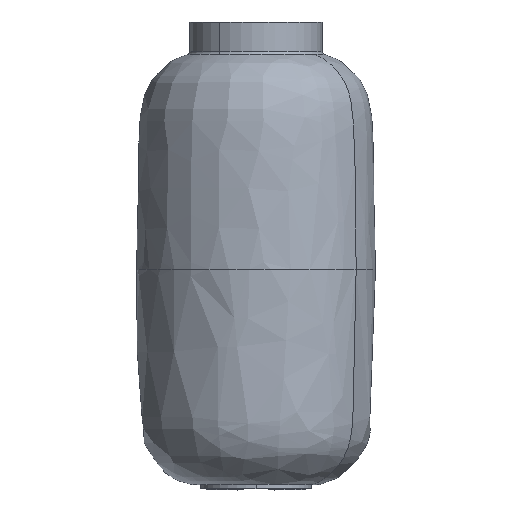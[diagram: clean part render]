
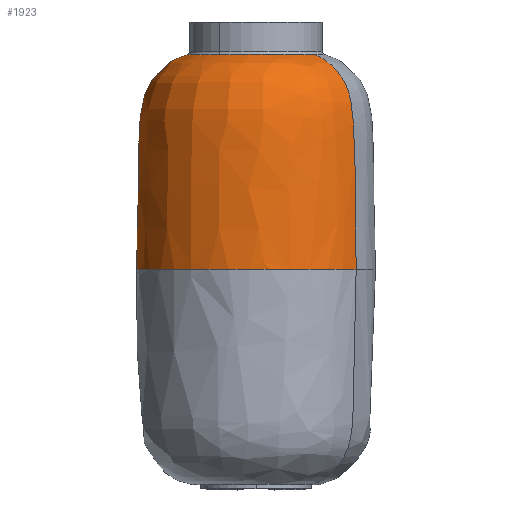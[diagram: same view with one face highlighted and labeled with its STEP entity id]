
A CAD part, top view. The second image highlights one B-rep face of the part: STEP entity #1923.
In plain terms, the highlighted free-form (B-spline) face has degree [3, 3] with [9, 4] control points.
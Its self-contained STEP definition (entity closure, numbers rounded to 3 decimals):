
#47 = CARTESIAN_POINT ( 'NONE',  ( -101.275, 236.669, 142.036 ) ) ;
#63 = CARTESIAN_POINT ( 'NONE',  ( 208.761, 236.669, 77.027 ) ) ;
#76 = CARTESIAN_POINT ( 'NONE',  ( 21.237, 234.627, -45.488 ) ) ;
#92 = CARTESIAN_POINT ( 'NONE',  ( 178.36, 433.108, 57.164 ) ) ;
#240 = ORIENTED_EDGE ( 'NONE', *, *, #1180, .F. ) ;
#252 = ORIENTED_EDGE ( 'NONE', *, *, #1494, .F. ) ;
#260 = CARTESIAN_POINT ( 'NONE',  ( 22.19, 359.636, -44.865 ) ) ;
#273 = CARTESIAN_POINT ( 'NONE',  ( 201.471, 403.762, 72.264 ) ) ;
#288 = CARTESIAN_POINT ( 'NONE',  ( -91.186, 390.59, 136.146 ) ) ;
#297 = B_SPLINE_CURVE_WITH_KNOTS ( 'NONE', 3,
 ( #1343, #930, #2056, #2918, #2072, #1378, #1392, #1814, #2747 ),
 .UNSPECIFIED., .F., .F.,
 ( 4, 1, 1, 1, 1, 1, 4 ),
 ( 0.045, 0.28, 0.332, 0.526, 0.595, 0.978, 1. ),
 .UNSPECIFIED. ) ;
#301 = CARTESIAN_POINT ( 'NONE',  ( 190.354, 422.765, 65.001 ) ) ;
#316 = CARTESIAN_POINT ( 'NONE',  ( 21.237, 234.627, -45.488 ) ) ;
#331 = CARTESIAN_POINT ( 'NONE',  ( 21.304, 275.52, -45.444 ) ) ;
#486 = CARTESIAN_POINT ( 'NONE',  ( 61.126, 435.609, -19.428 ) ) ;
#497 = CARTESIAN_POINT ( 'NONE',  ( 207.81, 359.636, 76.405 ) ) ;
#531 = VERTEX_POINT ( 'NONE', #2917 ) ;
#582 = CIRCLE ( 'NONE', #2252, 64.353 ) ;
#586 = DIRECTION ( 'NONE',  ( 0., -1., 0. ) ) ;
#711 = DIRECTION ( 'NONE',  ( -0.547, 0., 0.837 ) ) ;
#719 = ORIENTED_EDGE ( 'NONE', *, *, #2081, .T. ) ;
#726 = CARTESIAN_POINT ( 'NONE',  ( -101.278, 234.627, 142.038 ) ) ;
#741 = CARTESIAN_POINT ( 'NONE',  ( 25.613, 390.59, -42.629 ) ) ;
#752 = AXIS2_PLACEMENT_3D ( 'NONE', #1481, #2200, #711 ) ;
#829 = CIRCLE ( 'NONE', #2356, 64.353 ) ;
#892 = CIRCLE ( 'NONE', #752, 112. ) ;
#930 = CARTESIAN_POINT ( 'NONE',  ( 178.36, 433.108, 57.164 ) ) ;
#968 = CARTESIAN_POINT ( 'NONE',  ( 208.763, 234.627, 77.028 ) ) ;
#1014 = CARTESIAN_POINT ( 'NONE',  ( 204.387, 390.59, 74.169 ) ) ;
#1026 = DIRECTION ( 'NONE',  ( -0.547, 0., 0.837 ) ) ;
#1050 =( BOUNDED_SURFACE ( )  B_SPLINE_SURFACE ( 3, 3, ( 
 ( #2492, #2242, #2922, #2335 ),
 ( #92, #1452, #2320, #1250 ),
 ( #301, #1425, #2350, #2383 ),
 ( #273, #1646, #1196, #1235 ),
 ( #1014, #1663, #288, #741 ),
 ( #497, #1897, #1210, #1410 ),
 ( #2140, #2366, #2097, #331 ),
 ( #63, #2808, #47, #2125 ),
 ( #968, #2112, #726, #316 ) ),
 .UNSPECIFIED., .F., .F., .T. ) 
 B_SPLINE_SURFACE_WITH_KNOTS ( ( 4, 1, 1, 1, 1, 1, 4 ),
 ( 4, 4 ),
 ( 0.045, 0.28, 0.332, 0.526, 0.595, 0.978, 1. ),
 ( 0., 1. ),
 .UNSPECIFIED. ) 
 GEOMETRIC_REPRESENTATION_ITEM ( )  RATIONAL_B_SPLINE_SURFACE ( (
 ( 1., 0.333, 0.333, 1.),
 ( 1., 0.333, 0.333, 1.),
 ( 1., 0.333, 0.333, 1.),
 ( 1., 0.333, 0.333, 1.),
 ( 1., 0.333, 0.333, 1.),
 ( 1., 0.333, 0.333, 1.),
 ( 1., 0.333, 0.333, 1.),
 ( 1., 0.333, 0.333, 1.),
 ( 1., 0.333, 0.333, 1.) ) ) 
 REPRESENTATION_ITEM ( '' )  SURFACE ( )  );
#1116 = FACE_OUTER_BOUND ( 'NONE', #2632, .T. ) ;
#1136 = CARTESIAN_POINT ( 'NONE',  ( 51.64, 433.108, -25.624 ) ) ;
#1180 = EDGE_CURVE ( 'NONE', #1348, #1952, #892, .T. ) ;
#1196 = CARTESIAN_POINT ( 'NONE',  ( -84.459, 403.762, 132.219 ) ) ;
#1210 = CARTESIAN_POINT ( 'NONE',  ( -99.08, 359.636, 140.755 ) ) ;
#1235 = CARTESIAN_POINT ( 'NONE',  ( 28.529, 403.762, -40.724 ) ) ;
#1250 = CARTESIAN_POINT ( 'NONE',  ( 51.64, 433.108, -25.624 ) ) ;
#1343 = CARTESIAN_POINT ( 'NONE',  ( 168.874, 435.609, 50.968 ) ) ;
#1348 = VERTEX_POINT ( 'NONE', #1502 ) ;
#1350 = VERTEX_POINT ( 'NONE', #2414 ) ;
#1354 = CARTESIAN_POINT ( 'NONE',  ( 25.613, 390.59, -42.629 ) ) ;
#1378 = CARTESIAN_POINT ( 'NONE',  ( 207.81, 359.636, 76.405 ) ) ;
#1392 = CARTESIAN_POINT ( 'NONE',  ( 208.696, 275.52, 76.984 ) ) ;
#1410 = CARTESIAN_POINT ( 'NONE',  ( 22.19, 359.636, -44.865 ) ) ;
#1425 = CARTESIAN_POINT ( 'NONE',  ( 91.893, 422.765, 215.709 ) ) ;
#1449 = VERTEX_POINT ( 'NONE', #2300 ) ;
#1452 = CARTESIAN_POINT ( 'NONE',  ( 95.571, 433.108, 183.883 ) ) ;
#1481 = CARTESIAN_POINT ( 'NONE',  ( 115., 234.627, 15.77 ) ) ;
#1494 = EDGE_CURVE ( 'NONE', #1350, #1348, #297, .T. ) ;
#1502 = CARTESIAN_POINT ( 'NONE',  ( 208.763, 234.627, 77.028 ) ) ;
#1512 = CARTESIAN_POINT ( 'NONE',  ( 115., 435.609, 15.77 ) ) ;
#1517 = CARTESIAN_POINT ( 'NONE',  ( 115., 435.609, 15.77 ) ) ;
#1646 = CARTESIAN_POINT ( 'NONE',  ( 88.483, 403.762, 245.206 ) ) ;
#1663 = CARTESIAN_POINT ( 'NONE',  ( 87.589, 390.59, 252.944 ) ) ;
#1754 = B_SPLINE_CURVE_WITH_KNOTS ( 'NONE', 3,
 ( #486, #1136, #2084, #1823, #1354, #260, #2739, #2496, #2546 ),
 .UNSPECIFIED., .F., .F.,
 ( 4, 1, 1, 1, 1, 1, 4 ),
 ( 0.045, 0.28, 0.332, 0.526, 0.595, 0.978, 1. ),
 .UNSPECIFIED. ) ;
#1814 = CARTESIAN_POINT ( 'NONE',  ( 208.761, 236.669, 77.027 ) ) ;
#1823 = CARTESIAN_POINT ( 'NONE',  ( 28.529, 403.762, -40.724 ) ) ;
#1897 = CARTESIAN_POINT ( 'NONE',  ( 86.54, 359.636, 262.025 ) ) ;
#1923 = ADVANCED_FACE ( 'NONE', ( #1116 ), #1050, .F. ) ;
#1952 = VERTEX_POINT ( 'NONE', #76 ) ;
#2056 = CARTESIAN_POINT ( 'NONE',  ( 190.354, 422.765, 65.001 ) ) ;
#2072 = CARTESIAN_POINT ( 'NONE',  ( 204.387, 390.59, 74.169 ) ) ;
#2081 = EDGE_CURVE ( 'NONE', #531, #1449, #582, .T. ) ;
#2084 = CARTESIAN_POINT ( 'NONE',  ( 39.646, 422.765, -33.461 ) ) ;
#2097 = CARTESIAN_POINT ( 'NONE',  ( -101.123, 275.52, 141.947 ) ) ;
#2112 = CARTESIAN_POINT ( 'NONE',  ( 86.247, 234.627, 264.554 ) ) ;
#2125 = CARTESIAN_POINT ( 'NONE',  ( 21.239, 236.669, -45.487 ) ) ;
#2140 = CARTESIAN_POINT ( 'NONE',  ( 208.696, 275.52, 76.984 ) ) ;
#2171 = ORIENTED_EDGE ( 'NONE', *, *, #2574, .T. ) ;
#2200 = DIRECTION ( 'NONE',  ( 0., -1., 0. ) ) ;
#2203 = DIRECTION ( 'NONE',  ( -0.547, 0., 0.837 ) ) ;
#2242 = CARTESIAN_POINT ( 'NONE',  ( 98.479, 435.609, 158.716 ) ) ;
#2252 = AXIS2_PLACEMENT_3D ( 'NONE', #1517, #586, #1026 ) ;
#2300 = CARTESIAN_POINT ( 'NONE',  ( 61.126, 435.609, -19.428 ) ) ;
#2320 = CARTESIAN_POINT ( 'NONE',  ( -31.148, 433.108, 101.095 ) ) ;
#2335 = CARTESIAN_POINT ( 'NONE',  ( 61.126, 435.609, -19.428 ) ) ;
#2350 = CARTESIAN_POINT ( 'NONE',  ( -58.816, 422.765, 117.248 ) ) ;
#2356 = AXIS2_PLACEMENT_3D ( 'NONE', #1512, #2424, #2203 ) ;
#2366 = CARTESIAN_POINT ( 'NONE',  ( 86.268, 275.52, 264.375 ) ) ;
#2383 = CARTESIAN_POINT ( 'NONE',  ( 39.646, 422.765, -33.461 ) ) ;
#2414 = CARTESIAN_POINT ( 'NONE',  ( 168.874, 435.609, 50.968 ) ) ;
#2424 = DIRECTION ( 'NONE',  ( 0., -1., 0. ) ) ;
#2492 = CARTESIAN_POINT ( 'NONE',  ( 168.874, 435.609, 50.968 ) ) ;
#2496 = CARTESIAN_POINT ( 'NONE',  ( 21.239, 236.669, -45.487 ) ) ;
#2546 = CARTESIAN_POINT ( 'NONE',  ( 21.237, 234.627, -45.488 ) ) ;
#2574 = EDGE_CURVE ( 'NONE', #1350, #531, #829, .T. ) ;
#2632 = EDGE_LOOP ( 'NONE', ( #252, #2171, #719, #2940, #240 ) ) ;
#2662 = EDGE_CURVE ( 'NONE', #1449, #1952, #1754, .T. ) ;
#2739 = CARTESIAN_POINT ( 'NONE',  ( 21.304, 275.52, -45.444 ) ) ;
#2747 = CARTESIAN_POINT ( 'NONE',  ( 208.763, 234.627, 77.028 ) ) ;
#2808 = CARTESIAN_POINT ( 'NONE',  ( 86.248, 236.669, 264.549 ) ) ;
#2917 = CARTESIAN_POINT ( 'NONE',  ( 79.802, 435.609, 69.644 ) ) ;
#2918 = CARTESIAN_POINT ( 'NONE',  ( 201.471, 403.762, 72.264 ) ) ;
#2922 = CARTESIAN_POINT ( 'NONE',  ( -9.27, 435.609, 88.321 ) ) ;
#2940 = ORIENTED_EDGE ( 'NONE', *, *, #2662, .T. ) ;
